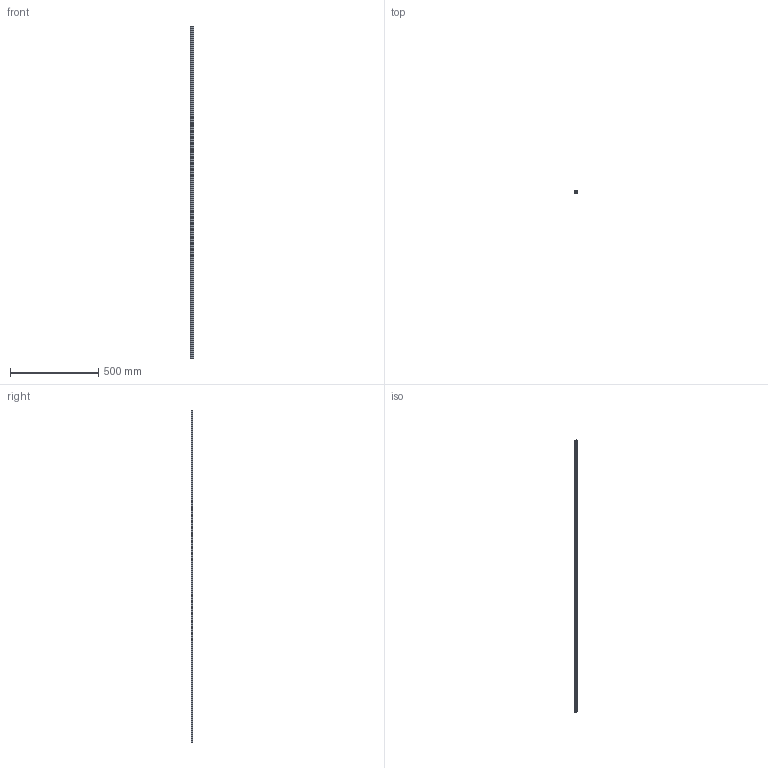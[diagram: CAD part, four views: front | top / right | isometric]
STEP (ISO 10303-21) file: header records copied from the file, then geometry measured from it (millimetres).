
FILE_DESCRIPTION(('STEP AP203'),'1');
FILE_NAME('slide_nv20l1886p1.stp','2022-07-01T04:23:11',('TraceParts'),('TraceParts S.A.'),'Spatial InterOp 3D',' ',' ');
FILE_SCHEMA(('CONFIG_CONTROL_DESIGN'));
Length unit declared in the file: millimetre
Products named in the file (1): 1
Bounding box: 19.63 x 10 x 1886 mm (x, y, z)
Volume: 240016.6 mm3; surface area: 112695.5 mm2
Topology: 1 solids, 1 shells, 133 faces, 330 edges, 220 vertices
Faces by surface type: cylinder 96, plane 37
Entity records: 4184 total; most frequent: DIRECTION 790, CARTESIAN_POINT 684, ORIENTED_EDGE 660, EDGE_CURVE 330, AXIS2_PLACEMENT_3D 326, VERTEX_POINT 220, EDGE_LOOP 196, CIRCLE 192
